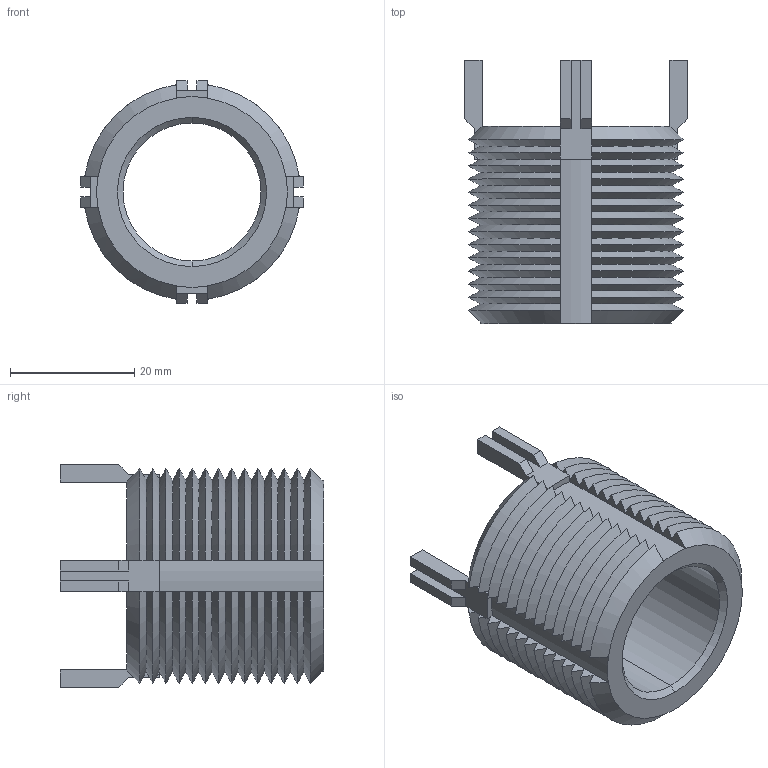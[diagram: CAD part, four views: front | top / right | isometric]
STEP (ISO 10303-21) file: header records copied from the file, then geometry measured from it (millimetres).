
FILE_DESCRIPTION (( 'STEP AP203' ), '1' );
FILE_NAME ('22024.W5421.step', '2020-01-04T22:00:05', ( '' ), ( '' ), 'SwSTEP 2.0', 'SolidWorks 2017', '' );
FILE_SCHEMA (( 'CONFIG_CONTROL_DESIGN' ));
Length unit declared in the file: millimetre
Products named in the file (1): 22024.W5421
Bounding box: 35.88 x 42.4 x 35.88 mm (x, y, z)
Volume: 14735.1 mm3; surface area: 9737.7 mm2
Topology: 1 solids, 1 shells, 212 faces, 570 edges, 360 vertices
Faces by surface type: cone 116, plane 90, cylinder 6
Entity records: 7515 total; most frequent: CARTESIAN_POINT 2559, ORIENTED_EDGE 1140, DIRECTION 864, EDGE_CURVE 570, VERTEX_POINT 360, AXIS2_PLACEMENT_3D 345, B_SPLINE_CURVE_WITH_KNOTS 264, EDGE_LOOP 214
